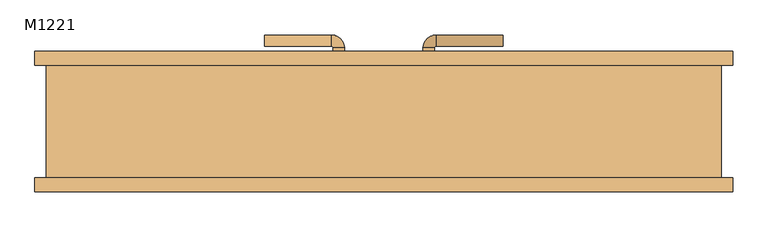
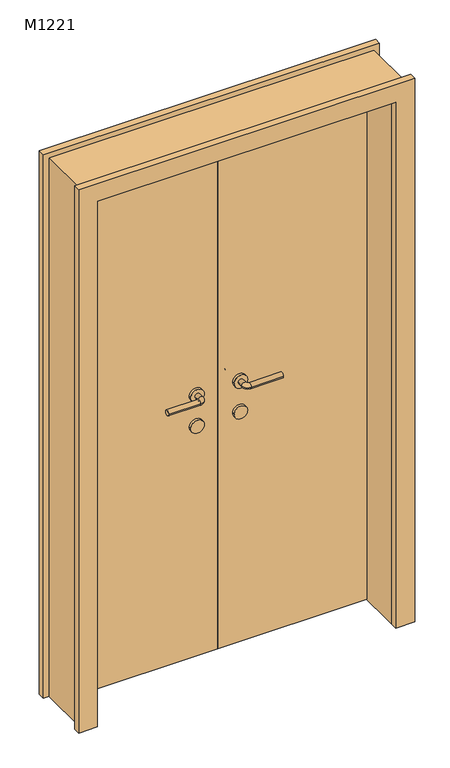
"""IFC4 building model written with IfcOpenShell, lengths in millimetres: door geometry, 双面嵌板木门 1 : M1221."""

from ifc_helpers import new_model, si_unit, point, frame, frame_2d, origin, origin_with_axes, place, context, project, spatial, polyline, circle_curve, ellipse_curve, trimmed, segment, composite_curve, outline, extrude, source, transform, mapped, element, save
from ifc_brep_helpers import plane_surface, cylinder_surface, revolved_surface, advanced_brep


def m1221_627b48e9(model_context):
    return source(origin(), model_context, "Body", "SolidModel", [
        extrude(outline(composite_curve([segment(trimmed(circle_curve(frame_2d((900.0, 80.0)), 25.0), [point((900.0, 105.0))], [point((900.0, 55.0))], False, "CARTESIAN"), True, "CONTINUOUS"), segment(trimmed(circle_curve(frame_2d((900.0, 80.0)), 25.0), [point((900.0, 55.0))], [point((900.0, 105.0))], False, "CARTESIAN"), True, "CONTINUOUS")], self_intersect=False)), frame((0.0, 100.0, 0.0), z_axis=(0.0, 1.0, 0.0), x_axis=(0.0, 0.0, 1.0)), (0.0, 0.0, 1.0), 10.0),
        extrude(outline(composite_curve([segment(trimmed(circle_curve(frame_2d((900.0, 80.0)), 25.0), [point((900.0, 105.0))], [point((900.0, 55.0))], False, "CARTESIAN"), True, "CONTINUOUS"), segment(trimmed(circle_curve(frame_2d((900.0, 80.0)), 25.0), [point((900.0, 55.0))], [point((900.0, 105.0))], False, "CARTESIAN"), True, "CONTINUOUS")], self_intersect=False)), frame((0.0, 50.0, 0.0), z_axis=(0.0, 1.0, 0.0), x_axis=(0.0, 0.0, 1.0)), (0.0, 0.0, 1.0), 10.0),
        advanced_brep(
        [(70.0, 110.0, 1020.0), (90.0, 110.0, 1020.0), (70.0, 130.6133551, 1020.0), (90.0, 130.6133551, 1020.0), (211.580964, 153.580964, 1020.0), (211.580964, 133.580964, 1020.0), (92.9676089, 133.580964, 1020.0), (92.9676089, 153.580964, 1020.0)],
        [
            (0, 1, circle_curve(frame((80.0, 110.0, 1020.0), z_axis=(0.0, -1.0, 0.0), x_axis=(1.0, 0.0, 0.0)), 10.0)),
            (1, 0, circle_curve(frame((80.0, 110.0, 1020.0), z_axis=(0.0, -1.0, 0.0), x_axis=(1.0, 0.0, 0.0)), 10.0)),
            (0, 2),
            (2, 3, circle_curve(frame((80.0, 130.6133551, 1020.0), z_axis=(0.0, -1.0, 0.0), x_axis=(1.0, 0.0, 0.0)), 10.0)),
            (3, 1),
            (3, 2, circle_curve(frame((80.0, 130.6133551, 1020.0), z_axis=(0.0, -1.0, 0.0), x_axis=(1.0, 0.0, 0.0)), 10.0)),
            (4, 5, circle_curve(frame((211.580964, 143.580964, 1020.0), z_axis=(1.0, 0.0, 0.0), x_axis=(0.0, -1.0, 0.0)), 10.0)),
            (5, 4, circle_curve(frame((211.580964, 143.580964, 1020.0), z_axis=(1.0, 0.0, 0.0), x_axis=(0.0, -1.0, 0.0)), 10.0)),
            (6, 7, circle_curve(frame((92.9676089, 143.580964, 1020.0), z_axis=(-1.0, 0.0, 0.0), x_axis=(0.0, -1.0, 0.0)), 10.0)),
            (7, 2, circle_curve(frame((92.9676089, 130.6133551, 1020.0), z_axis=(0.0, 0.0, 1.0), x_axis=(-1.0, 0.0, 0.0)), 22.9676089)),
            (3, 6, circle_curve(frame((92.9676089, 130.6133551, 1020.0), z_axis=(0.0, 0.0, -1.0), x_axis=(-1.0, 0.0, 0.0)), 2.9676089)),
            (7, 6, circle_curve(frame((92.9676089, 143.580964, 1020.0), z_axis=(-1.0, 0.0, 0.0), x_axis=(0.0, -1.0, 0.0)), 10.0)),
            (6, 5),
            (4, 7),
        ],
        [
            plane_surface(frame((80.0, 110.0, 900.0), z_axis=(0.0, -1.0, 0.0), x_axis=(0.0, 0.0, 1.0))),
            cylinder_surface(frame((80.0, 110.0, 1020.0), z_axis=(0.0, -1.0, 0.0), x_axis=(1.0, 0.0, 0.0)), 10.0),
            plane_surface(frame((211.580964, 143.580964, 900.0), z_axis=(1.0, 0.0, 0.0), x_axis=(0.0, 0.0, 1.0))),
            revolved_surface(trimmed(ellipse_curve(frame((80.0, 130.6133551, 1020.0), z_axis=(0.0, 1.0, 0.0), x_axis=(1.0, 0.0, 0.0)), 10.0, 10.0), [point((70.0, 130.6133551, 1020.0))], [point((90.0, 130.6133551, 1020.0))], True, "CARTESIAN"), (92.9676089, 130.6133551, 900.0), (0.0, 0.0, 1.0)),
            revolved_surface(trimmed(ellipse_curve(frame((80.0, 130.6133551, 1020.0), z_axis=(0.0, 1.0, 0.0), x_axis=(1.0, 0.0, 0.0)), 10.0, 10.0), [point((90.0, 130.6133551, 1020.0))], [point((70.0, 130.6133551, 1020.0))], True, "CARTESIAN"), (92.9676089, 130.6133551, 900.0), (0.0, 0.0, 1.0)),
            cylinder_surface(frame((92.9676089, 143.580964, 1020.0), z_axis=(-1.0, 0.0, 0.0), x_axis=(0.0, -1.0, 0.0)), 10.0),
        ],
        [
            (0, [[1, 2]]),
            (1, [[3, 4, 5, -1]]),
            (1, [[-5, 6, -3, -2]]),
            (2, [[7, 8]]),
            (3, [[9, 10, -6, 11]]),
            (4, [[12, -11, -4, -10]]),
            (5, [[13, -7, 14, -9]]),
            (5, [[-14, -8, -13, -12]]),
        ],
    ),
        extrude(outline(composite_curve([segment(trimmed(circle_curve(frame_2d((1020.0, 80.0)), 25.0), [point((1020.0, 105.0))], [point((1020.0, 55.0))], False, "CARTESIAN"), True, "CONTINUOUS"), segment(trimmed(circle_curve(frame_2d((1020.0, 80.0)), 25.0), [point((1020.0, 55.0))], [point((1020.0, 105.0))], False, "CARTESIAN"), True, "CONTINUOUS")], self_intersect=False)), frame((0.0, 100.0, 0.0), z_axis=(0.0, 1.0, 0.0), x_axis=(0.0, 0.0, 1.0)), (0.0, 0.0, 1.0), 10.0),
        advanced_brep(
        [(90.0, 50.0, 1020.0), (70.0, 50.0, 1020.0), (70.0, 29.386645, 1020.0), (90.0, 29.386645, 1020.0), (211.580964, 26.419036, 1020.0), (211.580964, 6.419036, 1020.0), (92.9676089, 6.419036, 1020.0), (92.9676089, 26.419036, 1020.0)],
        [
            (0, 1, circle_curve(frame((80.0, 50.0, 1020.0), z_axis=(0.0, 1.0, 0.0), x_axis=(-1.0, 0.0, 0.0)), 10.0)),
            (1, 0, circle_curve(frame((80.0, 50.0, 1020.0), z_axis=(0.0, 1.0, 0.0), x_axis=(-1.0, 0.0, 0.0)), 10.0)),
            (1, 2),
            (2, 3, circle_curve(frame((80.0, 29.386645, 1020.0), z_axis=(0.0, 1.0, 0.0), x_axis=(-1.0, 0.0, 0.0)), 10.0)),
            (3, 0),
            (3, 2, circle_curve(frame((80.0, 29.386645, 1020.0), z_axis=(0.0, 1.0, 0.0), x_axis=(-1.0, 0.0, 0.0)), 10.0)),
            (4, 5, circle_curve(frame((211.580964, 16.419036, 1020.0), z_axis=(1.0, 0.0, 0.0), x_axis=(0.0, -1.0, 0.0)), 10.0)),
            (5, 4, circle_curve(frame((211.580964, 16.419036, 1020.0), z_axis=(1.0, 0.0, 0.0), x_axis=(0.0, -1.0, 0.0)), 10.0)),
            (6, 7, circle_curve(frame((92.9676089, 16.419036, 1020.0), z_axis=(-1.0, 0.0, 0.0), x_axis=(0.0, -1.0, 0.0)), 10.0)),
            (7, 3, circle_curve(frame((92.9676089, 29.386645, 1020.0), z_axis=(0.0, 0.0, -1.0), x_axis=(-1.0, 0.0, 0.0)), 2.9676089)),
            (2, 6, circle_curve(frame((92.9676089, 29.386645, 1020.0), z_axis=(0.0, 0.0, 1.0), x_axis=(-1.0, 0.0, 0.0)), 22.9676089)),
            (7, 6, circle_curve(frame((92.9676089, 16.419036, 1020.0), z_axis=(-1.0, 0.0, 0.0), x_axis=(0.0, -1.0, 0.0)), 10.0)),
            (6, 5),
            (4, 7),
        ],
        [
            plane_surface(frame((80.0, 50.0, 900.0), z_axis=(0.0, 1.0, 0.0), x_axis=(0.0, 0.0, 1.0))),
            cylinder_surface(frame((80.0, 50.0, 1020.0), z_axis=(0.0, 1.0, 0.0), x_axis=(-1.0, 0.0, 0.0)), 10.0),
            plane_surface(frame((211.580964, 16.419036, 900.0), z_axis=(1.0, 0.0, 0.0), x_axis=(0.0, 0.0, 1.0))),
            revolved_surface(trimmed(ellipse_curve(frame((80.0, 29.386645, 1020.0), z_axis=(0.0, -1.0, 0.0), x_axis=(-1.0, 0.0, 0.0)), 10.0, 10.0), [point((90.0, 29.386645, 1020.0))], [point((70.0, 29.386645, 1020.0))], True, "CARTESIAN"), (92.9676089, 29.386645, 900.0), (0.0, 0.0, -1.0)),
            revolved_surface(trimmed(ellipse_curve(frame((80.0, 29.386645, 1020.0), z_axis=(0.0, -1.0, 0.0), x_axis=(-1.0, 0.0, 0.0)), 10.0, 10.0), [point((70.0, 29.386645, 1020.0))], [point((90.0, 29.386645, 1020.0))], True, "CARTESIAN"), (92.9676089, 29.386645, 900.0), (0.0, 0.0, -1.0)),
            cylinder_surface(frame((92.9676089, 16.419036, 1020.0), z_axis=(-1.0, 0.0, 0.0), x_axis=(0.0, -1.0, 0.0)), 10.0),
        ],
        [
            (0, [[1, 2]]),
            (1, [[3, 4, 5, -2]]),
            (1, [[-5, 6, -3, -1]]),
            (2, [[7, 8]]),
            (3, [[9, 10, -4, 11]]),
            (4, [[12, -11, -6, -10]]),
            (5, [[13, -7, 14, -9]]),
            (5, [[-14, -8, -13, -12]]),
        ],
    ),
        extrude(outline(composite_curve([segment(trimmed(circle_curve(frame_2d((1020.0, 80.0)), 25.0), [point((1020.0, 105.0))], [point((1020.0, 55.0))], False, "CARTESIAN"), True, "CONTINUOUS"), segment(trimmed(circle_curve(frame_2d((1020.0, 80.0)), 25.0), [point((1020.0, 55.0))], [point((1020.0, 105.0))], False, "CARTESIAN"), True, "CONTINUOUS")], self_intersect=False)), frame((0.0, 50.0, 0.0), z_axis=(0.0, 1.0, 0.0), x_axis=(0.0, 0.0, 1.0)), (0.0, 0.0, 1.0), 10.0),
        extrude(outline(composite_curve([segment(trimmed(circle_curve(frame_2d((900.0, -80.0)), 25.0), [point((900.0, -105.0))], [point((900.0, -55.0))], False, "CARTESIAN"), True, "CONTINUOUS"), segment(trimmed(circle_curve(frame_2d((900.0, -80.0)), 25.0), [point((900.0, -55.0))], [point((900.0, -105.0))], False, "CARTESIAN"), True, "CONTINUOUS")], self_intersect=False)), frame((0.0, 100.0, 0.0), z_axis=(0.0, 1.0, 0.0), x_axis=(0.0, 0.0, 1.0)), (0.0, 0.0, 1.0), 10.0),
        extrude(outline(composite_curve([segment(trimmed(circle_curve(frame_2d((900.0, -80.0)), 25.0), [point((900.0, -105.0))], [point((900.0, -55.0))], False, "CARTESIAN"), True, "CONTINUOUS"), segment(trimmed(circle_curve(frame_2d((900.0, -80.0)), 25.0), [point((900.0, -55.0))], [point((900.0, -105.0))], False, "CARTESIAN"), True, "CONTINUOUS")], self_intersect=False)), frame((0.0, 50.0, 0.0), z_axis=(0.0, 1.0, 0.0), x_axis=(0.0, 0.0, 1.0)), (0.0, 0.0, 1.0), 10.0),
        advanced_brep(
        [(-70.0, 110.0, 1020.0), (-90.0, 110.0, 1020.0), (-90.0, 130.6133551, 1020.0), (-70.0, 130.6133551, 1020.0), (-211.580964, 153.580964, 1020.0), (-211.580964, 133.580964, 1020.0), (-92.9676089, 133.580964, 1020.0), (-92.9676089, 153.580964, 1020.0)],
        [
            (0, 1, circle_curve(frame((-80.0, 110.0, 1020.0), z_axis=(0.0, -1.0, 0.0), x_axis=(-1.0, 0.0, 0.0)), 10.0)),
            (1, 0, circle_curve(frame((-80.0, 110.0, 1020.0), z_axis=(0.0, -1.0, 0.0), x_axis=(-1.0, 0.0, 0.0)), 10.0)),
            (1, 2),
            (2, 3, circle_curve(frame((-80.0, 130.6133551, 1020.0), z_axis=(0.0, -1.0, 0.0), x_axis=(-1.0, 0.0, 0.0)), 10.0)),
            (3, 0),
            (3, 2, circle_curve(frame((-80.0, 130.6133551, 1020.0), z_axis=(0.0, -1.0, 0.0), x_axis=(-1.0, 0.0, 0.0)), 10.0)),
            (4, 5, circle_curve(frame((-211.580964, 143.580964, 1020.0), z_axis=(-1.0, 0.0, 0.0), x_axis=(0.0, -1.0, 0.0)), 10.0)),
            (5, 4, circle_curve(frame((-211.580964, 143.580964, 1020.0), z_axis=(-1.0, 0.0, 0.0), x_axis=(0.0, -1.0, 0.0)), 10.0)),
            (6, 2, circle_curve(frame((-92.9676089, 130.6133551, 1020.0), z_axis=(0.0, 0.0, -1.0), x_axis=(1.0, 0.0, 0.0)), 2.9676089)),
            (3, 7, circle_curve(frame((-92.9676089, 130.6133551, 1020.0), z_axis=(0.0, 0.0, 1.0), x_axis=(1.0, 0.0, 0.0)), 22.9676089)),
            (7, 6, circle_curve(frame((-92.9676089, 143.580964, 1020.0), z_axis=(1.0, 0.0, 0.0), x_axis=(0.0, -1.0, 0.0)), 10.0)),
            (6, 7, circle_curve(frame((-92.9676089, 143.580964, 1020.0), z_axis=(1.0, 0.0, 0.0), x_axis=(0.0, -1.0, 0.0)), 10.0)),
            (7, 4),
            (5, 6),
        ],
        [
            plane_surface(frame((-80.0, 110.0, 900.0), z_axis=(0.0, -1.0, 0.0), x_axis=(0.0, 0.0, 1.0))),
            cylinder_surface(frame((-80.0, 110.0, 1020.0), z_axis=(0.0, -1.0, 0.0), x_axis=(-1.0, 0.0, 0.0)), 10.0),
            plane_surface(frame((-211.580964, 143.580964, 900.0), z_axis=(-1.0, 0.0, 0.0), x_axis=(0.0, 0.0, 1.0))),
            revolved_surface(trimmed(ellipse_curve(frame((-80.0, 130.6133551, 1020.0), z_axis=(0.0, -1.0, 0.0), x_axis=(-1.0, 0.0, 0.0)), 10.0, 10.0), [point((-70.0, 130.6133551, 1020.0))], [point((-90.0, 130.6133551, 1020.0))], True, "CARTESIAN"), (-92.9676089, 130.6133551, 900.0), (0.0, 0.0, 1.0)),
            revolved_surface(trimmed(ellipse_curve(frame((-80.0, 130.6133551, 1020.0), z_axis=(0.0, -1.0, 0.0), x_axis=(-1.0, 0.0, 0.0)), 10.0, 10.0), [point((-90.0, 130.6133551, 1020.0))], [point((-70.0, 130.6133551, 1020.0))], True, "CARTESIAN"), (-92.9676089, 130.6133551, 900.0), (0.0, 0.0, 1.0)),
            cylinder_surface(frame((-92.9676089, 143.580964, 1020.0), z_axis=(1.0, 0.0, 0.0), x_axis=(0.0, -1.0, 0.0)), 10.0),
        ],
        [
            (0, [[1, 2]]),
            (1, [[-2, 3, 4, 5]]),
            (1, [[-1, -5, 6, -3]]),
            (2, [[7, 8]]),
            (3, [[9, -6, 10, 11]]),
            (4, [[-10, -4, -9, 12]]),
            (5, [[-11, 13, -8, 14]]),
            (5, [[-12, -14, -7, -13]]),
        ],
    ),
        extrude(outline(composite_curve([segment(trimmed(circle_curve(frame_2d((1020.0, -80.0)), 25.0), [point((1020.0, -105.0))], [point((1020.0, -55.0))], False, "CARTESIAN"), True, "CONTINUOUS"), segment(trimmed(circle_curve(frame_2d((1020.0, -80.0)), 25.0), [point((1020.0, -55.0))], [point((1020.0, -105.0))], False, "CARTESIAN"), True, "CONTINUOUS")], self_intersect=False)), frame((0.0, 100.0, 0.0), z_axis=(0.0, 1.0, 0.0), x_axis=(0.0, 0.0, 1.0)), (0.0, 0.0, 1.0), 10.0),
        advanced_brep(
        [(-90.0, 50.0, 1020.0), (-70.0, 50.0, 1020.0), (-90.0, 29.386645, 1020.0), (-70.0, 29.386645, 1020.0), (-211.580964, 26.419036, 1020.0), (-211.580964, 6.419036, 1020.0), (-92.9676089, 6.419036, 1020.0), (-92.9676089, 26.419036, 1020.0)],
        [
            (0, 1, circle_curve(frame((-80.0, 50.0, 1020.0), z_axis=(0.0, 1.0, 0.0), x_axis=(1.0, 0.0, 0.0)), 10.0)),
            (1, 0, circle_curve(frame((-80.0, 50.0, 1020.0), z_axis=(0.0, 1.0, 0.0), x_axis=(1.0, 0.0, 0.0)), 10.0)),
            (0, 2),
            (2, 3, circle_curve(frame((-80.0, 29.386645, 1020.0), z_axis=(0.0, 1.0, 0.0), x_axis=(1.0, 0.0, 0.0)), 10.0)),
            (3, 1),
            (3, 2, circle_curve(frame((-80.0, 29.386645, 1020.0), z_axis=(0.0, 1.0, 0.0), x_axis=(1.0, 0.0, 0.0)), 10.0)),
            (4, 5, circle_curve(frame((-211.580964, 16.419036, 1020.0), z_axis=(-1.0, 0.0, 0.0), x_axis=(0.0, -1.0, 0.0)), 10.0)),
            (5, 4, circle_curve(frame((-211.580964, 16.419036, 1020.0), z_axis=(-1.0, 0.0, 0.0), x_axis=(0.0, -1.0, 0.0)), 10.0)),
            (6, 3, circle_curve(frame((-92.9676089, 29.386645, 1020.0), z_axis=(0.0, 0.0, 1.0), x_axis=(1.0, 0.0, 0.0)), 22.9676089)),
            (2, 7, circle_curve(frame((-92.9676089, 29.386645, 1020.0), z_axis=(0.0, 0.0, -1.0), x_axis=(1.0, 0.0, 0.0)), 2.9676089)),
            (7, 6, circle_curve(frame((-92.9676089, 16.419036, 1020.0), z_axis=(1.0, 0.0, 0.0), x_axis=(0.0, -1.0, 0.0)), 10.0)),
            (6, 7, circle_curve(frame((-92.9676089, 16.419036, 1020.0), z_axis=(1.0, 0.0, 0.0), x_axis=(0.0, -1.0, 0.0)), 10.0)),
            (7, 4),
            (5, 6),
        ],
        [
            plane_surface(frame((-80.0, 50.0, 900.0), z_axis=(0.0, 1.0, 0.0), x_axis=(0.0, 0.0, 1.0))),
            cylinder_surface(frame((-80.0, 50.0, 1020.0), z_axis=(0.0, 1.0, 0.0), x_axis=(1.0, 0.0, 0.0)), 10.0),
            plane_surface(frame((-211.580964, 16.419036, 900.0), z_axis=(-1.0, 0.0, 0.0), x_axis=(0.0, 0.0, 1.0))),
            revolved_surface(trimmed(ellipse_curve(frame((-80.0, 29.386645, 1020.0), z_axis=(0.0, 1.0, 0.0), x_axis=(1.0, 0.0, 0.0)), 10.0, 10.0), [point((-90.0, 29.386645, 1020.0))], [point((-70.0, 29.386645, 1020.0))], True, "CARTESIAN"), (-92.9676089, 29.386645, 900.0), (0.0, 0.0, -1.0)),
            revolved_surface(trimmed(ellipse_curve(frame((-80.0, 29.386645, 1020.0), z_axis=(0.0, 1.0, 0.0), x_axis=(1.0, 0.0, 0.0)), 10.0, 10.0), [point((-70.0, 29.386645, 1020.0))], [point((-90.0, 29.386645, 1020.0))], True, "CARTESIAN"), (-92.9676089, 29.386645, 900.0), (0.0, 0.0, -1.0)),
            cylinder_surface(frame((-92.9676089, 16.419036, 1020.0), z_axis=(1.0, 0.0, 0.0), x_axis=(0.0, -1.0, 0.0)), 10.0),
        ],
        [
            (0, [[1, 2]]),
            (1, [[-1, 3, 4, 5]]),
            (1, [[-2, -5, 6, -3]]),
            (2, [[7, 8]]),
            (3, [[9, -4, 10, 11]]),
            (4, [[-10, -6, -9, 12]]),
            (5, [[-11, 13, -8, 14]]),
            (5, [[-12, -14, -7, -13]]),
        ],
    ),
        extrude(outline(composite_curve([segment(trimmed(circle_curve(frame_2d((1020.0, -80.0)), 25.0), [point((1020.0, -105.0))], [point((1020.0, -55.0))], False, "CARTESIAN"), True, "CONTINUOUS"), segment(trimmed(circle_curve(frame_2d((1020.0, -80.0)), 25.0), [point((1020.0, -55.0))], [point((1020.0, -105.0))], False, "CARTESIAN"), True, "CONTINUOUS")], self_intersect=False)), frame((0.0, 50.0, 0.0), z_axis=(0.0, 1.0, 0.0), x_axis=(0.0, 0.0, 1.0)), (0.0, 0.0, 1.0), 10.0),
        extrude(outline(polyline([(0.0, 620.0), (2120.0, 620.0), (2120.0, -620.0), (0.0, -620.0), (0.0, -550.0), (2050.0, -550.0), (2050.0, 550.0), (0.0, 550.0), (0.0, 620.0)])), frame((0.0, 100.0, 0.0), z_axis=(0.0, 1.0, 0.0), x_axis=(0.0, 0.0, 1.0)), (0.0, 0.0, 1.0), 25.0),
        extrude(outline(polyline([(2120.0, 620.0), (2120.0, -620.0), (0.0, -620.0), (0.0, -550.0), (2050.0, -550.0), (2050.0, 550.0), (0.0, 550.0), (0.0, 620.0), (2120.0, 620.0)])), frame((0.0, -125.0, 0.0), z_axis=(0.0, 1.0, 0.0), x_axis=(0.0, 0.0, 1.0)), (0.0, 0.0, 1.0), 25.0),
        extrude(outline(polyline([(550.0, 60.0), (0.0, 60.0), (0.0, 100.0), (550.0, 100.0), (550.0, 60.0)])), origin_with_axes(), (0.0, 0.0, 1.0), 2050.0),
        extrude(outline(polyline([(0.0, 60.0), (-550.0, 60.0), (-550.0, 100.0), (0.0, 100.0), (0.0, 60.0)])), origin_with_axes(), (0.0, 0.0, 1.0), 2050.0),
        extrude(outline(polyline([(2100.0, -600.0), (0.0, -600.0), (0.0, -550.0), (2050.0, -550.0), (2050.0, 550.0), (0.0, 550.0), (0.0, 600.0), (2100.0, 600.0), (2100.0, -600.0)])), frame((0.0, -100.0, 0.0), z_axis=(0.0, 1.0, 0.0), x_axis=(0.0, 0.0, 1.0)), (0.0, 0.0, 1.0), 200.0),
    ])


if __name__ == "__main__":
    model = new_model("IFC4")
    model_context = context("Model", 3, world=origin())
    ifc_project = project(units=[si_unit("LENGTHUNIT", "METRE", prefix="MILLI")], contexts=[model_context])
    site = spatial("IfcSite", under=ifc_project)
    building = spatial("IfcBuilding", under=site)
    placement = place(None, origin())
    m1221_shape = m1221_627b48e9(model_context)
    element("IfcDoor", 1, ObjectType="双面嵌板木门 1 : M1221", at=placement, inside=building, context=model_context, shape_type="MappedRepresentation", body=[
        mapped(m1221_shape, transform((0.0, 0.0, 0.0), x_axis=(1.0, 0.0, 0.0), y_axis=(0.0, 1.0, 0.0), z_axis=(0.0, 0.0, 1.0))),
    ])
    save(model, "model.ifc")
